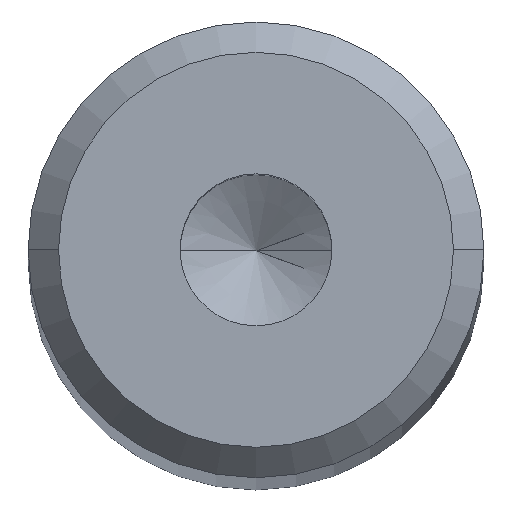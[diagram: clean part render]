
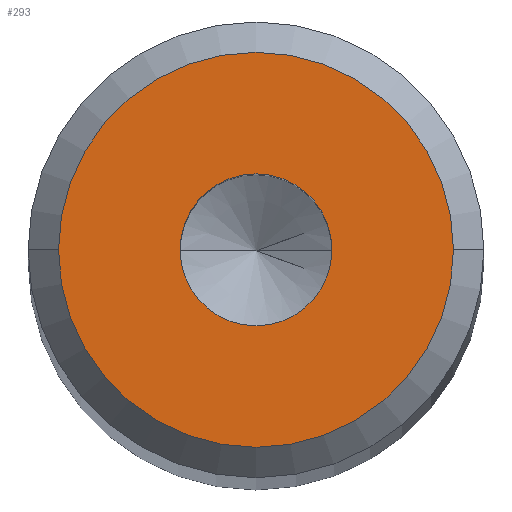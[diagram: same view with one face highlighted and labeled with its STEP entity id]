
A CAD part, top view. The second image highlights one B-rep face of the part: STEP entity #293.
In plain terms, the highlighted planar face has unit normal (0, 0, 1).
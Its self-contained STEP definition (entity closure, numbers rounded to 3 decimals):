
#1 = CARTESIAN_POINT ( 'NONE',  ( 0., 0., 116.5 ) ) ;
#25 = CARTESIAN_POINT ( 'NONE',  ( 6.5, 0., 116.5 ) ) ;
#31 = CARTESIAN_POINT ( 'NONE',  ( -2.5, 0., 116.5 ) ) ;
#36 = CARTESIAN_POINT ( 'NONE',  ( -6.5, 0., 116.5 ) ) ;
#37 = CARTESIAN_POINT ( 'NONE',  ( 2.5, 0., 116.5 ) ) ;
#48 = CARTESIAN_POINT ( 'NONE',  ( 0., 0., 116.5 ) ) ;
#49 = DIRECTION ( 'NONE',  ( 0., 0., 1. ) ) ;
#50 = AXIS2_PLACEMENT_3D ( 'NONE', #394, #395, #396 ) ;
#53 = AXIS2_PLACEMENT_3D ( 'NONE', #48, #49, #431 ) ;
#54 = AXIS2_PLACEMENT_3D ( 'NONE', #432, #433, #434 ) ;
#71 = CIRCLE ( 'NONE', #406, 6.5 ) ;
#82 = VERTEX_POINT ( 'NONE', #31 ) ;
#83 = VERTEX_POINT ( 'NONE', #37 ) ;
#85 = VERTEX_POINT ( 'NONE', #36 ) ;
#91 = VERTEX_POINT ( 'NONE', #25 ) ;
#112 = ORIENTED_EDGE ( 'NONE', *, *, #429, .T. ) ;
#117 = ORIENTED_EDGE ( 'NONE', *, *, #430, .F. ) ;
#121 = ORIENTED_EDGE ( 'NONE', *, *, #421, .F. ) ;
#137 = ORIENTED_EDGE ( 'NONE', *, *, #281, .T. ) ;
#157 = EDGE_LOOP ( 'NONE', ( #117, #121 ) ) ;
#164 = EDGE_LOOP ( 'NONE', ( #112, #137 ) ) ;
#216 = CIRCLE ( 'NONE', #54, 2.5 ) ;
#217 = CIRCLE ( 'NONE', #53, 6.5 ) ;
#231 = CIRCLE ( 'NONE', #50, 2.5 ) ;
#260 = FACE_BOUND ( 'NONE', #157, .T. ) ;
#269 = FACE_OUTER_BOUND ( 'NONE', #164, .T. ) ;
#281 = EDGE_CURVE ( 'NONE', #91, #85, #71, .T. ) ;
#293 = ADVANCED_FACE ( 'NONE', ( #269, #260 ), #452, .T. ) ;
#374 = AXIS2_PLACEMENT_3D ( 'NONE', #450, #447, #453 ) ;
#394 = CARTESIAN_POINT ( 'NONE',  ( 0., 0., 116.5 ) ) ;
#395 = DIRECTION ( 'NONE',  ( 0., 0., 1. ) ) ;
#396 = DIRECTION ( 'NONE',  ( 1., 0., 0. ) ) ;
#406 = AXIS2_PLACEMENT_3D ( 'NONE', #1, #483, #477 ) ;
#421 = EDGE_CURVE ( 'NONE', #82, #83, #231, .T. ) ;
#429 = EDGE_CURVE ( 'NONE', #85, #91, #217, .T. ) ;
#430 = EDGE_CURVE ( 'NONE', #83, #82, #216, .T. ) ;
#431 = DIRECTION ( 'NONE',  ( 1., 0., 0. ) ) ;
#432 = CARTESIAN_POINT ( 'NONE',  ( 0., 0., 116.5 ) ) ;
#433 = DIRECTION ( 'NONE',  ( 0., 0., 1. ) ) ;
#434 = DIRECTION ( 'NONE',  ( 1., 0., 0. ) ) ;
#447 = DIRECTION ( 'NONE',  ( 0., 0., 1. ) ) ;
#450 = CARTESIAN_POINT ( 'NONE',  ( 0., 0., 116.5 ) ) ;
#452 = PLANE ( 'NONE',  #374 ) ;
#453 = DIRECTION ( 'NONE',  ( 1., 0., 0. ) ) ;
#477 = DIRECTION ( 'NONE',  ( 1., 0., 0. ) ) ;
#483 = DIRECTION ( 'NONE',  ( 0., 0., 1. ) ) ;
